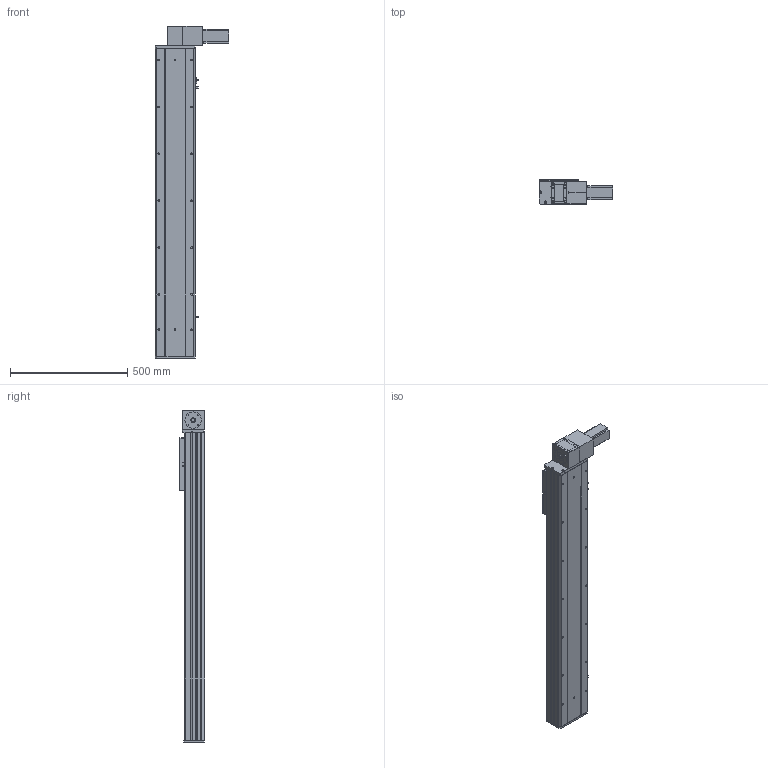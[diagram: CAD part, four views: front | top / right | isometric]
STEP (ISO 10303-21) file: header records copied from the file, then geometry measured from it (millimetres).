
FILE_DESCRIPTION (( 'STEP AP203' ), '1' );
FILE_NAME ('Y170CB-D105-S1000-BD-P400W.STEP', '2020-02-20T08:32:33', ( '微软用户' ), ( '微软中国' ), 'SwSTEP 2.0', 'SolidWorks 2017', '' );
FILE_SCHEMA (( 'CONFIG_CONTROL_DESIGN' ));
Length unit declared in the file: millimetre
Products named in the file (16): 70C--詩湍揤踡え-; Y170CB-D105-S1000-BD-P400W; 70CB--耜裔; 70C-雄赽釱-奻-; 0C--雄赽釱俋欶-170; B-源倛裔啣; Y100-135俋离換覜ん--; 70CB-詩湍--; san松下电机400不带刹车----; Y170CB-陔俋离換覜結え---; 70CB-掛极-; Y1埴倛裔; --70CB --喘謫眊楊擘啣-; 70B喘謫眊----; 70CB-耜裔啣-; 0B薊粣ん眊-400W--
Assembly tree (19 placements, depth 2):
  Y170CB-D105-S1000-BD-P400W
    B-源倛裔啣
    san松下电机400不带刹车----
    70CB-掛极-
    --70CB --喘謫眊楊擘啣-
    70CB-耜裔啣-  x2
    70C--詩湍揤踡え-  x2
    70CB--耜裔
    70C-雄赽釱-奻-
    0C--雄赽釱俋欶-170
    70CB-詩湍--
    Y100-135俋离換覜ん--  x3
    Y170CB-陔俋离換覜結え---
    Y1埴倛裔
    70B喘謫眊----
    0B薊粣ん眊-400W--
Bounding box: 313.5 x 107 x 1416 mm (x, y, z)
Volume: 6826884.3 mm3; surface area: 2315842.5 mm2
Topology: 19 solids, 19 shells, 920 faces, 2426 edges, 1608 vertices
Faces by surface type: cylinder 474, plane 422, cone 24
Entity records: 28719 total; most frequent: CARTESIAN_POINT 5326, DIRECTION 4671, ORIENTED_EDGE 4334, EDGE_CURVE 2167, AXIS2_PLACEMENT_3D 1721, VERTEX_POINT 1438, LINE 1229, VECTOR 1229
